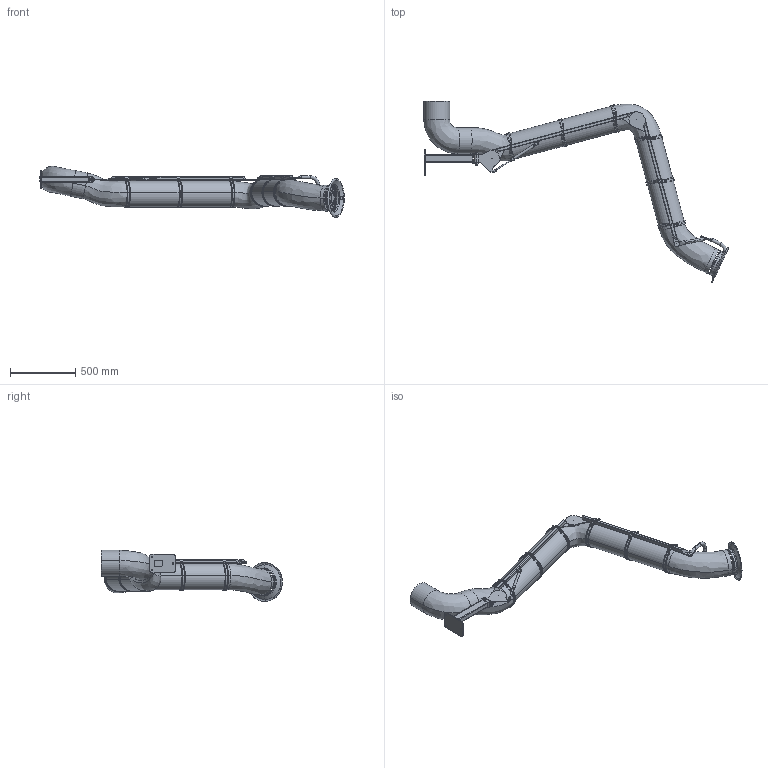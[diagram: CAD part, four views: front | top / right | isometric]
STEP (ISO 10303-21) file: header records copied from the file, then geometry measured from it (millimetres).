
FILE_DESCRIPTION((''),'2;1');
FILE_NAME('PSR_3000-200_EXD','2022-10-04T11:36:45',('Tomas Bellgran'),(''),'CREO PARAMETRIC BY PTC INC, 2018260','CREO PARAMETRIC BY PTC INC, 2018260','');
FILE_SCHEMA(('AUTOMOTIVE_DESIGN { 1 0 10303 214 1 1 1 1 }'));
Length unit declared in the file: millimetre
Products named in the file (36): 141558; 141580; 141581; 122701; 141514; 141560; 141582; 141587; 141524; 121391; 131150; 139383; 131151; 131173; 144356; 141589; 134343_AF0; G_P136_WELD-REF; 141590; 122717_LIGHT; 120127_COMPL_LIGHT; 130317; ROD_STAB_8-160-REF; 131095; 130322_AF25; 131145; 139617; 139618; 139616; 139615; 139614; 139620; 141645; 124460; 107526-11; PSR_3000-200_EXD
Assembly tree (53 placements, depth 3):
  PSR_3000-200_EXD
    141514
      141558
      141580
      141581
      122701
    141524
      141560
      141582
      141587
    121391  x4
    131150
    131173
      139383
      131151
    144356  x2
    141590
      141589
      134343_AF0
      G_P136_WELD-REF
    122717_LIGHT
    120127_COMPL_LIGHT
    130322_AF25
      130317
      ROD_STAB_8-160-REF
      131095  x2
    131145  x2
    139620
      139617  x3
      139618
      139616
      139615
      139614
    141645
    124460  x6
    107526-11  x6
Bounding box: 2337.06 x 1388.34 x 392.88 mm (x, y, z)
Volume: 101997862.1 mm3; surface area: 2987497.9 mm2
Topology: 47 solids, 47 shells, 1109 faces, 2647 edges, 1628 vertices
Faces by surface type: plane 403, cylinder 341, bspline 230, torus 74, cone 42, extrusion 17, sphere 2
Entity records: 36850 total; most frequent: CARTESIAN_POINT 13642, DIRECTION 2990, ORIENTED_EDGE 2696, PRESENTATION_STYLE_ASSIGNMENT 1876, STYLED_ITEM 1849, CURVE_STYLE 1355, EDGE_CURVE 1348, AXIS2_PLACEMENT_3D 1190
